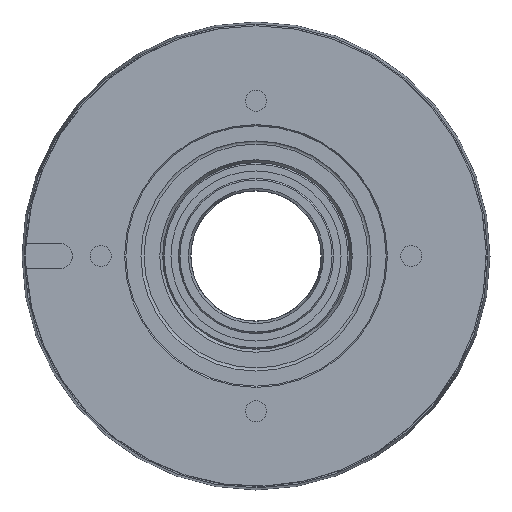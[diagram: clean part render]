
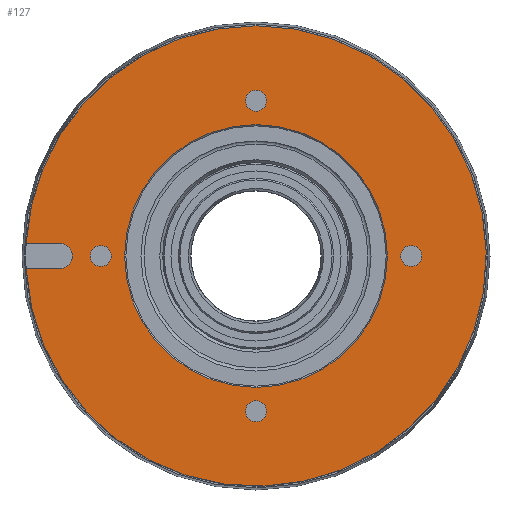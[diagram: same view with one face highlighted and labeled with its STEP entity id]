
A CAD part, left-side view. The second image highlights one B-rep face of the part: STEP entity #127.
In plain terms, the highlighted planar face has unit normal (-1, 0, 0).
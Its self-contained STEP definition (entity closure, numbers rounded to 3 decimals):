
#6 = FACE_BOUND ( 'NONE', #146, .T. ) ;
#16 = AXIS2_PLACEMENT_3D ( 'NONE', #491, #640, #186 ) ;
#43 = EDGE_CURVE ( 'NONE', #1207, #1555, #1799, .T. ) ;
#56 = CARTESIAN_POINT ( 'NONE',  ( 0., 31., 0. ) ) ;
#62 = DIRECTION ( 'NONE',  ( -1., 0., 0. ) ) ;
#67 = ORIENTED_EDGE ( 'NONE', *, *, #1506, .F. ) ;
#74 = AXIS2_PLACEMENT_3D ( 'NONE', #603, #1236, #913 ) ;
#82 = CIRCLE ( 'NONE', #1067, 2.1 ) ;
#110 = CIRCLE ( 'NONE', #115, 2.1 ) ;
#114 = CARTESIAN_POINT ( 'NONE',  ( 0., 45.932, 2.5 ) ) ;
#115 = AXIS2_PLACEMENT_3D ( 'NONE', #986, #1584, #227 ) ;
#127 = ADVANCED_FACE ( 'NONE', ( #6, #917, #241, #190, #552, #1673 ), #903, .T. ) ;
#146 = EDGE_LOOP ( 'NONE', ( #67 ) ) ;
#186 = DIRECTION ( 'NONE',  ( 0., 0., 1. ) ) ;
#190 = FACE_BOUND ( 'NONE', #768, .T. ) ;
#212 = CARTESIAN_POINT ( 'NONE',  ( 0., 39.2, -2.5 ) ) ;
#227 = DIRECTION ( 'NONE',  ( 0., 0., 1. ) ) ;
#233 = CARTESIAN_POINT ( 'NONE',  ( 0., 0., 26.25 ) ) ;
#241 = FACE_BOUND ( 'NONE', #518, .T. ) ;
#247 = VERTEX_POINT ( 'NONE', #233 ) ;
#268 = CARTESIAN_POINT ( 'NONE',  ( 0., 39.2, 2.5 ) ) ;
#289 = VECTOR ( 'NONE', #1182, 1000. ) ;
#301 = AXIS2_PLACEMENT_3D ( 'NONE', #1053, #1356, #1681 ) ;
#327 = CARTESIAN_POINT ( 'NONE',  ( 0., 0., 33.1 ) ) ;
#344 = EDGE_CURVE ( 'NONE', #1555, #1444, #1649, .T. ) ;
#419 = VERTEX_POINT ( 'NONE', #114 ) ;
#467 = CARTESIAN_POINT ( 'NONE',  ( 0., -31., 2.1 ) ) ;
#490 = CIRCLE ( 'NONE', #1237, 26.25 ) ;
#491 = CARTESIAN_POINT ( 'NONE',  ( 0., 0., 31. ) ) ;
#518 = EDGE_LOOP ( 'NONE', ( #1520 ) ) ;
#529 = CARTESIAN_POINT ( 'NONE',  ( 0., 0., -31. ) ) ;
#552 = FACE_OUTER_BOUND ( 'NONE', #1144, .T. ) ;
#567 = CARTESIAN_POINT ( 'NONE',  ( 0., 45.932, -2.5 ) ) ;
#603 = CARTESIAN_POINT ( 'NONE',  ( 0., 0., 0. ) ) ;
#640 = DIRECTION ( 'NONE',  ( -1., 0., 0. ) ) ;
#644 = CIRCLE ( 'NONE', #16, 2.1 ) ;
#650 = ORIENTED_EDGE ( 'NONE', *, *, #1794, .T. ) ;
#659 = EDGE_CURVE ( 'NONE', #982, #982, #1867, .T. ) ;
#687 = DIRECTION ( 'NONE',  ( -1., 0., 0. ) ) ;
#706 = AXIS2_PLACEMENT_3D ( 'NONE', #56, #62, #1589 ) ;
#731 = CARTESIAN_POINT ( 'NONE',  ( 0., 0., 0. ) ) ;
#768 = EDGE_LOOP ( 'NONE', ( #1971 ) ) ;
#771 = EDGE_CURVE ( 'NONE', #1535, #1535, #644, .T. ) ;
#804 = LINE ( 'NONE', #268, #1980 ) ;
#881 = ORIENTED_EDGE ( 'NONE', *, *, #344, .F. ) ;
#882 = DIRECTION ( 'NONE',  ( -1., 0., 0. ) ) ;
#898 = EDGE_CURVE ( 'NONE', #960, #960, #110, .T. ) ;
#900 = CIRCLE ( 'NONE', #74, 46. ) ;
#903 = PLANE ( 'NONE',  #301 ) ;
#913 = DIRECTION ( 'NONE',  ( 0., 0., 1. ) ) ;
#917 = FACE_BOUND ( 'NONE', #1142, .T. ) ;
#960 = VERTEX_POINT ( 'NONE', #467 ) ;
#982 = VERTEX_POINT ( 'NONE', #1394 ) ;
#986 = CARTESIAN_POINT ( 'NONE',  ( 0., -31., 0. ) ) ;
#1024 = CARTESIAN_POINT ( 'NONE',  ( 0., 50., -2.5 ) ) ;
#1053 = CARTESIAN_POINT ( 'NONE',  ( 0., 0., 0. ) ) ;
#1067 = AXIS2_PLACEMENT_3D ( 'NONE', #529, #687, #1137 ) ;
#1137 = DIRECTION ( 'NONE',  ( 0., 0., 1. ) ) ;
#1142 = EDGE_LOOP ( 'NONE', ( #1169 ) ) ;
#1144 = EDGE_LOOP ( 'NONE', ( #1747, #881, #1750, #650 ) ) ;
#1166 = CARTESIAN_POINT ( 'NONE',  ( 0., 0., -28.9 ) ) ;
#1169 = ORIENTED_EDGE ( 'NONE', *, *, #898, .F. ) ;
#1182 = DIRECTION ( 'NONE',  ( 0., -1., 0. ) ) ;
#1191 = DIRECTION ( 'NONE',  ( -1., 0., 0. ) ) ;
#1197 = DIRECTION ( 'NONE',  ( 0., 0., 1. ) ) ;
#1202 = DIRECTION ( 'NONE',  ( 0., 1., 0. ) ) ;
#1205 = EDGE_CURVE ( 'NONE', #1444, #419, #804, .T. ) ;
#1207 = VERTEX_POINT ( 'NONE', #567 ) ;
#1236 = DIRECTION ( 'NONE',  ( -1., 0., 0. ) ) ;
#1237 = AXIS2_PLACEMENT_3D ( 'NONE', #731, #882, #1954 ) ;
#1280 = EDGE_CURVE ( 'NONE', #247, #247, #490, .T. ) ;
#1288 = ORIENTED_EDGE ( 'NONE', *, *, #1280, .F. ) ;
#1324 = VERTEX_POINT ( 'NONE', #1166 ) ;
#1352 = CARTESIAN_POINT ( 'NONE',  ( 0., 39.2, 0. ) ) ;
#1356 = DIRECTION ( 'NONE',  ( -1., 0., 0. ) ) ;
#1394 = CARTESIAN_POINT ( 'NONE',  ( 0., 31., 2.1 ) ) ;
#1444 = VERTEX_POINT ( 'NONE', #1851 ) ;
#1456 = EDGE_LOOP ( 'NONE', ( #1288 ) ) ;
#1462 = AXIS2_PLACEMENT_3D ( 'NONE', #1352, #1191, #1197 ) ;
#1506 = EDGE_CURVE ( 'NONE', #1324, #1324, #82, .T. ) ;
#1520 = ORIENTED_EDGE ( 'NONE', *, *, #771, .F. ) ;
#1535 = VERTEX_POINT ( 'NONE', #327 ) ;
#1555 = VERTEX_POINT ( 'NONE', #212 ) ;
#1584 = DIRECTION ( 'NONE',  ( -1., 0., 0. ) ) ;
#1589 = DIRECTION ( 'NONE',  ( 0., 0., 1. ) ) ;
#1649 = CIRCLE ( 'NONE', #1462, 2.5 ) ;
#1673 = FACE_BOUND ( 'NONE', #1456, .T. ) ;
#1681 = DIRECTION ( 'NONE',  ( 0., 0., 1. ) ) ;
#1747 = ORIENTED_EDGE ( 'NONE', *, *, #1205, .F. ) ;
#1750 = ORIENTED_EDGE ( 'NONE', *, *, #43, .F. ) ;
#1794 = EDGE_CURVE ( 'NONE', #1207, #419, #900, .T. ) ;
#1799 = LINE ( 'NONE', #1024, #289 ) ;
#1851 = CARTESIAN_POINT ( 'NONE',  ( 0., 39.2, 2.5 ) ) ;
#1867 = CIRCLE ( 'NONE', #706, 2.1 ) ;
#1954 = DIRECTION ( 'NONE',  ( 0., 0., 1. ) ) ;
#1971 = ORIENTED_EDGE ( 'NONE', *, *, #659, .F. ) ;
#1980 = VECTOR ( 'NONE', #1202, 1000. ) ;
